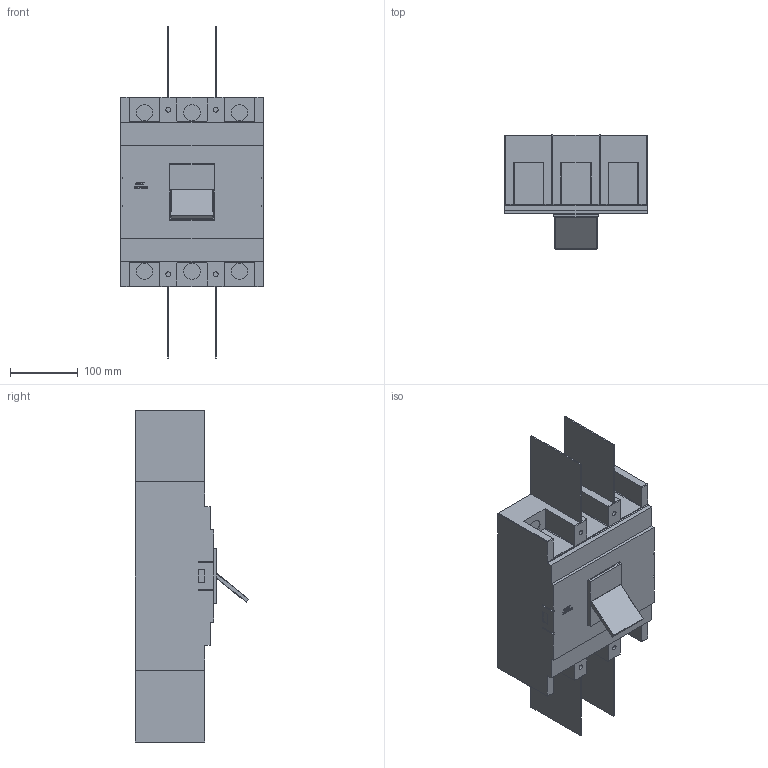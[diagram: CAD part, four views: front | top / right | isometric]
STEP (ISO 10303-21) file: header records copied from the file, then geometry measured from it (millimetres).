
FILE_DESCRIPTION(/* description */ ('','CAx-IF Rec.Pracs.---Representation and Presentation of Product Manufacturing Information (PMI)---3.8---2014-02-18'),/* implementation_level */ '2;1');
FILE_NAME(/* name */ 'C:\Users\ILYA\Desktop\NM1\Авт. выкл. NM1-800H3Р 630A 60кА (CHINT)\Авт. выкл. NM1-800H3Р 630A 60кА (CHINT).stp',/* time_stamp */ '2017-08-19T08:25:37+03:00',/* author */ ('ILYA'),/* organization */ (''),/* preprocessor_version */ 'ST-DEVELOPER v16.1',/* originating_system */ 'Autodesk Inventor 2016',/* authorisation */ '');
FILE_SCHEMA (('AP242_MANAGED_MODEL_BASED_3D_ENGINEERING_MIM_LF { 1 0 10303 442 1 1 4 }'));
Length unit declared in the file: millimetre
Products named in the file (1): Авт. выкл. NM1-80
0H3Р 630A 60кА (CHINT)
Bounding box: 210 x 167.79 x 490 mm (x, y, z)
Volume: 6071747.9 mm3; surface area: 354086.2 mm2
Topology: 1 solids, 1 shells, 340 faces, 899 edges, 592 vertices
Faces by surface type: plane 222, bspline 60, cylinder 50, torus 4, sphere 4
Full cylindrical faces by diameter (mm): 7 x4, 24 x6
Entity records: 10969 total; most frequent: CARTESIAN_POINT 2802, ORIENTED_EDGE 1778, DIRECTION 1429, EDGE_CURVE 889, LINE 663, VECTOR 663, VERTEX_POINT 592, AXIS2_PLACEMENT_3D 383
